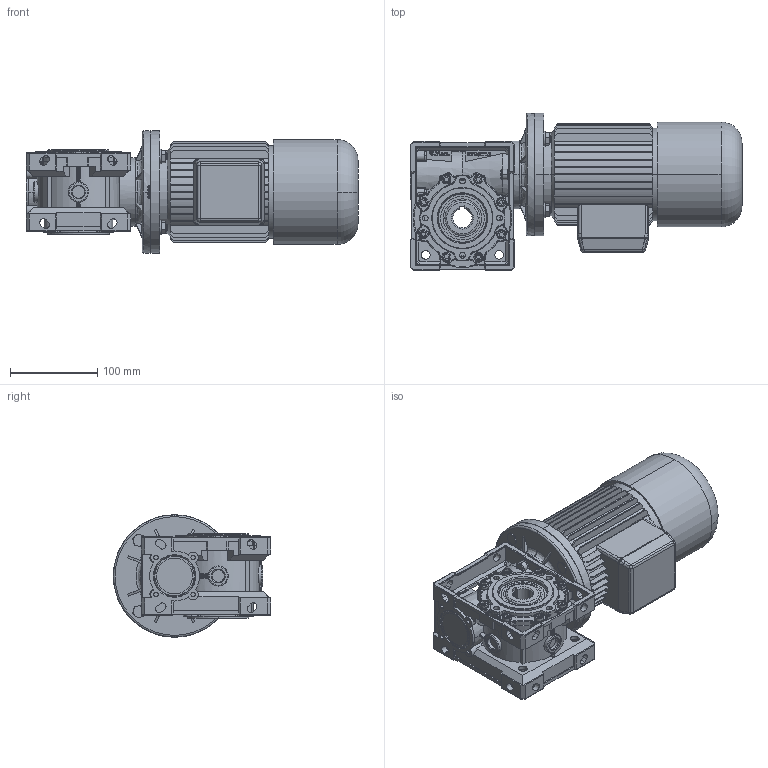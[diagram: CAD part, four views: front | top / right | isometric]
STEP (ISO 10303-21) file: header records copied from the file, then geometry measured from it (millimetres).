
FILE_DESCRIPTION((''),'2;1');
FILE_NAME('D:\_Assiemi MV\_File Sito\50\STP\MV50_B5-63BRAKE.stp','2005-07-27T10:03:34',('tech2'),(''),'Autodesk Inventor 9','Autodesk Inventor 9','');
FILE_SCHEMA(('AUTOMOTIVE_DESIGN { 1 0 10303 214 1 1 1 1 }'));
Length unit declared in the file: millimetre
Products named in the file (16): MV50_B5-63BRAKE; 4005001-A0; 4005008-A0 mozzo; 4005004-A0; Capp-47-7; Paraolio-30-55-7; Paraolio-40-56-7; TCCE-6X16-ribassata; Tappo-3-8-gas-nero; Guarnizione-tappo-3-8-gas; motori B5 brake 63; FM-40-50-D=140; UNI 5739  (Filetto regolare) M8 x 25; UNI 5589  (Filetto regolare) M8; UNI 6593 9 x 17
Assembly tree (32 placements, depth 3):
  MV50_B5-63BRAKE
    4005001-A0
    4005008-A0 mozzo
    4005004-A0
    Capp-47-7
    Paraolio-30-55-7
    Paraolio-40-56-7  x2
    TCCE-6X16-ribassata  x8
    Tappo-3-8-gas-nero
    Guarnizione-tappo-3-8-gas
    motori B5 brake 63
    FM-40-50-D=140
      FM-40-50-D=140
      UNI 5739  (Filetto regolare) M8 x 25  x4
      UNI 5589  (Filetto regolare) M8  x4
      UNI 6593 9 x 17  x4
Bounding box: 380 x 180 x 140 mm (x, y, z)
Volume: 2803390.2 mm3; surface area: 509580.9 mm2
Topology: 32 solids, 34 shells, 3667 faces, 9373 edges, 5895 vertices
Faces by surface type: plane 1310, cylinder 1202, bspline 763, cone 238, torus 146, sphere 8
Entity records: 118627 total; most frequent: CARTESIAN_POINT 39749, ORIENTED_EDGE 16962, DIRECTION 15918, EDGE_CURVE 8481, AXIS2_PLACEMENT_3D 5810, VERTEX_POINT 5393, VECTOR 4298, LINE 4298
